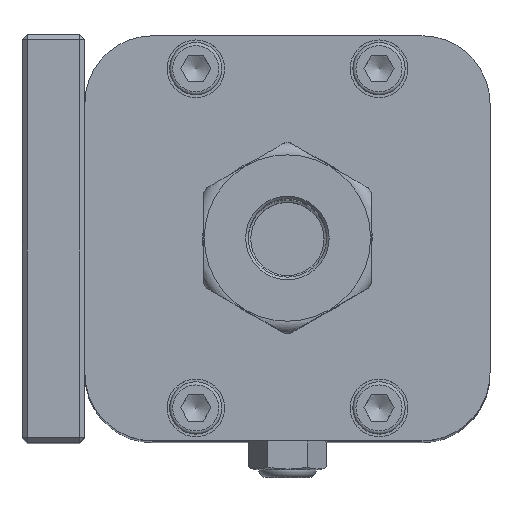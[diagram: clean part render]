
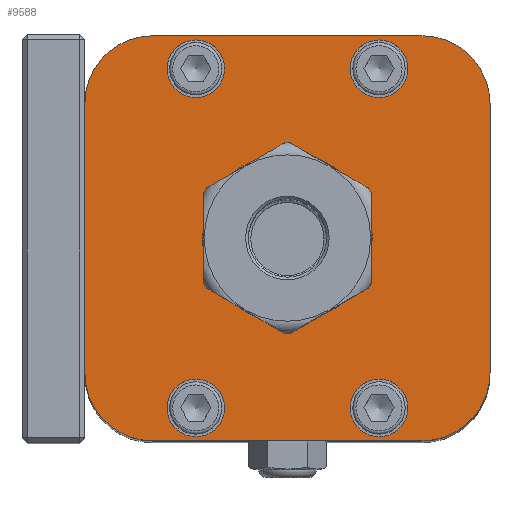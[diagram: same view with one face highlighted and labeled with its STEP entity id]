
A CAD part, top view. The second image highlights one B-rep face of the part: STEP entity #9588.
In plain terms, the highlighted planar face has unit normal (0, 0, 1) as drawn and (0, 0, -1) by its records, which use the part's own axes.
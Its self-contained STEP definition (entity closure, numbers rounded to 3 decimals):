
#484=FACE_BOUND('',#1628,.T.);
#485=FACE_BOUND('',#1629,.T.);
#486=FACE_BOUND('',#1630,.T.);
#487=FACE_BOUND('',#1631,.T.);
#488=FACE_BOUND('',#1632,.T.);
#668=PLANE('',#10638);
#1041=FACE_OUTER_BOUND('',#1627,.T.);
#1627=EDGE_LOOP('',(#7662,#7663,#7664,#7665,#7666,#7667,#7668,#7669));
#1628=EDGE_LOOP('',(#7670));
#1629=EDGE_LOOP('',(#7671));
#1630=EDGE_LOOP('',(#7672));
#1631=EDGE_LOOP('',(#7673));
#1632=EDGE_LOOP('',(#7674));
#2401=LINE('',#15512,#3237);
#2402=LINE('',#15516,#3238);
#2403=LINE('',#15520,#3239);
#2404=LINE('',#15524,#3240);
#3237=VECTOR('',#12503,10.);
#3238=VECTOR('',#12506,10.);
#3239=VECTOR('',#12509,10.);
#3240=VECTOR('',#12512,10.);
#3901=CIRCLE('',#10633,15.289);
#3905=CIRCLE('',#10639,13.);
#3906=CIRCLE('',#10640,13.);
#3907=CIRCLE('',#10641,13.);
#3908=CIRCLE('',#10642,13.);
#3909=CIRCLE('',#10643,5.5);
#3910=CIRCLE('',#10644,5.5);
#3911=CIRCLE('',#10645,5.5);
#3912=CIRCLE('',#10646,5.5);
#4596=VERTEX_POINT('',#15498);
#4600=VERTEX_POINT('',#15510);
#4601=VERTEX_POINT('',#15511);
#4602=VERTEX_POINT('',#15513);
#4603=VERTEX_POINT('',#15515);
#4604=VERTEX_POINT('',#15517);
#4605=VERTEX_POINT('',#15519);
#4606=VERTEX_POINT('',#15521);
#4607=VERTEX_POINT('',#15523);
#4608=VERTEX_POINT('',#15526);
#4609=VERTEX_POINT('',#15528);
#4610=VERTEX_POINT('',#15530);
#4611=VERTEX_POINT('',#15532);
#5707=EDGE_CURVE('',#4596,#4596,#3901,.T.);
#5713=EDGE_CURVE('',#4600,#4601,#2401,.T.);
#5714=EDGE_CURVE('',#4602,#4600,#3905,.T.);
#5715=EDGE_CURVE('',#4603,#4602,#2402,.T.);
#5716=EDGE_CURVE('',#4604,#4603,#3906,.T.);
#5717=EDGE_CURVE('',#4605,#4604,#2403,.T.);
#5718=EDGE_CURVE('',#4606,#4605,#3907,.T.);
#5719=EDGE_CURVE('',#4607,#4606,#2404,.T.);
#5720=EDGE_CURVE('',#4601,#4607,#3908,.T.);
#5721=EDGE_CURVE('',#4608,#4608,#3909,.T.);
#5722=EDGE_CURVE('',#4609,#4609,#3910,.T.);
#5723=EDGE_CURVE('',#4610,#4610,#3911,.T.);
#5724=EDGE_CURVE('',#4611,#4611,#3912,.T.);
#7662=ORIENTED_EDGE('',*,*,#5713,.F.);
#7663=ORIENTED_EDGE('',*,*,#5714,.F.);
#7664=ORIENTED_EDGE('',*,*,#5715,.F.);
#7665=ORIENTED_EDGE('',*,*,#5716,.F.);
#7666=ORIENTED_EDGE('',*,*,#5717,.F.);
#7667=ORIENTED_EDGE('',*,*,#5718,.F.);
#7668=ORIENTED_EDGE('',*,*,#5719,.F.);
#7669=ORIENTED_EDGE('',*,*,#5720,.F.);
#7670=ORIENTED_EDGE('',*,*,#5721,.T.);
#7671=ORIENTED_EDGE('',*,*,#5722,.T.);
#7672=ORIENTED_EDGE('',*,*,#5723,.T.);
#7673=ORIENTED_EDGE('',*,*,#5724,.T.);
#7674=ORIENTED_EDGE('',*,*,#5707,.F.);
#9588=ADVANCED_FACE('',(#1041,#484,#485,#486,#487,#488),#668,.F.);
#10633=AXIS2_PLACEMENT_3D('',#15499,#12489,#12490);
#10638=AXIS2_PLACEMENT_3D('',#15509,#12501,#12502);
#10639=AXIS2_PLACEMENT_3D('',#15514,#12504,#12505);
#10640=AXIS2_PLACEMENT_3D('',#15518,#12507,#12508);
#10641=AXIS2_PLACEMENT_3D('',#15522,#12510,#12511);
#10642=AXIS2_PLACEMENT_3D('',#15525,#12513,#12514);
#10643=AXIS2_PLACEMENT_3D('',#15527,#12515,#12516);
#10644=AXIS2_PLACEMENT_3D('',#15529,#12517,#12518);
#10645=AXIS2_PLACEMENT_3D('',#15531,#12519,#12520);
#10646=AXIS2_PLACEMENT_3D('',#15533,#12521,#12522);
#12489=DIRECTION('center_axis',(0.,0.,-1.));
#12490=DIRECTION('ref_axis',(0.,-1.,0.));
#12501=DIRECTION('center_axis',(0.,0.,1.));
#12502=DIRECTION('ref_axis',(1.,0.,0.));
#12503=DIRECTION('',(1.,0.,0.));
#12504=DIRECTION('center_axis',(0.,0.,1.));
#12505=DIRECTION('ref_axis',(-1.,0.,0.));
#12506=DIRECTION('',(0.,-1.,0.));
#12507=DIRECTION('center_axis',(0.,0.,1.));
#12508=DIRECTION('ref_axis',(0.,1.,0.));
#12509=DIRECTION('',(-1.,0.,0.));
#12510=DIRECTION('center_axis',(0.,0.,1.));
#12511=DIRECTION('ref_axis',(1.,0.,0.));
#12512=DIRECTION('',(0.,1.,0.));
#12513=DIRECTION('center_axis',(0.,0.,1.));
#12514=DIRECTION('ref_axis',(0.,-1.,0.));
#12515=DIRECTION('center_axis',(0.,0.,1.));
#12516=DIRECTION('ref_axis',(-1.,0.,0.));
#12517=DIRECTION('center_axis',(0.,0.,1.));
#12518=DIRECTION('ref_axis',(-1.,0.,0.));
#12519=DIRECTION('center_axis',(0.,0.,1.));
#12520=DIRECTION('ref_axis',(-1.,0.,0.));
#12521=DIRECTION('center_axis',(0.,0.,1.));
#12522=DIRECTION('ref_axis',(-1.,0.,0.));
#15498=CARTESIAN_POINT('',(0.,15.289,0.));
#15499=CARTESIAN_POINT('Origin',(0.,0.,0.));
#15509=CARTESIAN_POINT('Origin',(0.,0.,
0.));
#15510=CARTESIAN_POINT('',(-25.7,-38.7,0.));
#15511=CARTESIAN_POINT('',(25.7,-38.7,0.));
#15512=CARTESIAN_POINT('',(-25.7,-38.7,0.));
#15513=CARTESIAN_POINT('',(-38.7,-25.7,0.));
#15514=CARTESIAN_POINT('Origin',(-25.7,-25.7,0.));
#15515=CARTESIAN_POINT('',(-38.7,25.7,0.));
#15516=CARTESIAN_POINT('',(-38.7,25.7,0.));
#15517=CARTESIAN_POINT('',(-25.7,38.7,0.));
#15518=CARTESIAN_POINT('Origin',(-25.7,25.7,0.));
#15519=CARTESIAN_POINT('',(25.7,38.7,0.));
#15520=CARTESIAN_POINT('',(25.7,38.7,0.));
#15521=CARTESIAN_POINT('',(38.7,25.7,0.));
#15522=CARTESIAN_POINT('Origin',(25.7,25.7,0.));
#15523=CARTESIAN_POINT('',(38.7,-25.7,0.));
#15524=CARTESIAN_POINT('',(38.7,-25.7,0.));
#15525=CARTESIAN_POINT('Origin',(25.7,-25.7,0.));
#15526=CARTESIAN_POINT('',(-12.,32.4,0.));
#15527=CARTESIAN_POINT('Origin',(-17.5,32.4,0.));
#15528=CARTESIAN_POINT('',(-12.,-32.4,0.));
#15529=CARTESIAN_POINT('Origin',(-17.5,-32.4,0.));
#15530=CARTESIAN_POINT('',(23.,-32.4,0.));
#15531=CARTESIAN_POINT('Origin',(17.5,-32.4,0.));
#15532=CARTESIAN_POINT('',(23.,32.4,0.));
#15533=CARTESIAN_POINT('Origin',(17.5,32.4,0.));
